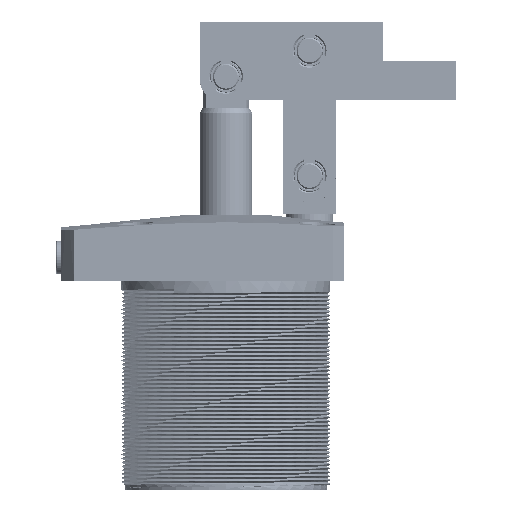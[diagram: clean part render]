
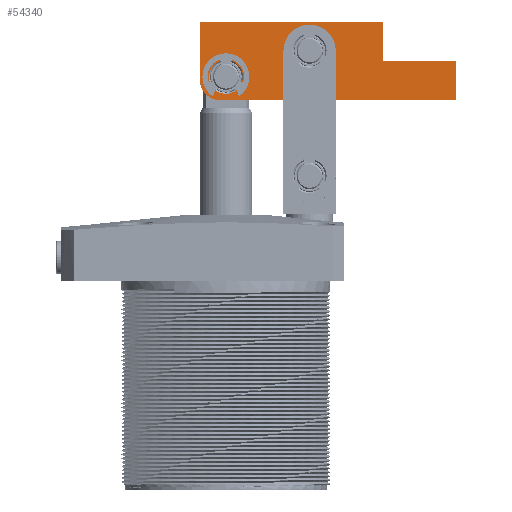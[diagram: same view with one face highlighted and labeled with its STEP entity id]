
A CAD part, top view. The second image highlights one B-rep face of the part: STEP entity #54340.
In plain terms, the highlighted planar face has unit normal (0, 0, 1).
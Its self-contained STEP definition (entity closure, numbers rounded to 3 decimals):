
#396 = DIRECTION ( 'NONE',  ( 0., 0., -1. ) ) ;
#1947 = VECTOR ( 'NONE', #126675, 1000. ) ;
#2425 = CARTESIAN_POINT ( 'NONE',  ( -39., 9., 0. ) ) ;
#4674 = LINE ( 'NONE', #133701, #43731 ) ;
#10088 = EDGE_CURVE ( 'NONE', #204620, #102092, #136750, .T. ) ;
#11262 = EDGE_CURVE ( 'NONE', #158176, #172004, #66409, .T. ) ;
#18214 = EDGE_CURVE ( 'NONE', #151499, #138774, #169553, .T. ) ;
#19231 = DIRECTION ( 'NONE',  ( 1., 0., 0. ) ) ;
#19596 = EDGE_CURVE ( 'NONE', #87784, #158176, #99294, .T. ) ;
#21206 = VERTEX_POINT ( 'NONE', #203450 ) ;
#26307 = PLANE ( 'NONE',  #151647 ) ;
#27056 = CARTESIAN_POINT ( 'NONE',  ( 49., 0., 0. ) ) ;
#27717 = CARTESIAN_POINT ( 'NONE',  ( 21., 30., 0. ) ) ;
#30214 = CIRCLE ( 'NONE', #137001, 5.5 ) ;
#34902 = AXIS2_PLACEMENT_3D ( 'NONE', #100062, #396, #116807 ) ;
#37311 = VERTEX_POINT ( 'NONE', #163186 ) ;
#37809 = FACE_BOUND ( 'NONE', #76000, .T. ) ;
#43731 = VECTOR ( 'NONE', #103111, 1000. ) ;
#47143 = DIRECTION ( 'NONE',  ( -1., 0., 0. ) ) ;
#47708 = LINE ( 'NONE', #198708, #136183 ) ;
#48501 = EDGE_LOOP ( 'NONE', ( #190998, #181748, #59007, #176963, #181205, #98797, #192561 ) ) ;
#54340 = ADVANCED_FACE ( 'NONE', ( #37809, #121079, #209416 ), #26307, .T. ) ;
#59007 = ORIENTED_EDGE ( 'NONE', *, *, #214879, .T. ) ;
#64963 = EDGE_LOOP ( 'NONE', ( #182777, #98330 ) ) ;
#66409 = LINE ( 'NONE', #180846, #110696 ) ;
#66437 = DIRECTION ( 'NONE',  ( 0., 1., 0. ) ) ;
#76000 = EDGE_LOOP ( 'NONE', ( #94307, #193317 ) ) ;
#76438 = DIRECTION ( 'NONE',  ( 1., 0., 0. ) ) ;
#78539 = DIRECTION ( 'NONE',  ( 0., 0., -1. ) ) ;
#81314 = CIRCLE ( 'NONE', #34902, 5.5 ) ;
#83188 = CARTESIAN_POINT ( 'NONE',  ( -41., 8., 0. ) ) ;
#84574 = EDGE_CURVE ( 'NONE', #102092, #87784, #4674, .T. ) ;
#87572 = VERTEX_POINT ( 'NONE', #112769 ) ;
#87784 = VERTEX_POINT ( 'NONE', #166448 ) ;
#92377 = LINE ( 'NONE', #111336, #204111 ) ;
#94307 = ORIENTED_EDGE ( 'NONE', *, *, #154981, .T. ) ;
#94323 = CARTESIAN_POINT ( 'NONE',  ( -39., 9., 0. ) ) ;
#94492 = EDGE_CURVE ( 'NONE', #37311, #87572, #30214, .T. ) ;
#98330 = ORIENTED_EDGE ( 'NONE', *, *, #206455, .T. ) ;
#98797 = ORIENTED_EDGE ( 'NONE', *, *, #19596, .T. ) ;
#99294 = CIRCLE ( 'NONE', #128797, 8. ) ;
#99902 = DIRECTION ( 'NONE',  ( -1., 0., 0. ) ) ;
#100062 = CARTESIAN_POINT ( 'NONE',  ( -7., 19., 0. ) ) ;
#100172 = EDGE_CURVE ( 'NONE', #21206, #106319, #92377, .T. ) ;
#102092 = VERTEX_POINT ( 'NONE', #163849 ) ;
#103111 = DIRECTION ( 'NONE',  ( 0., -1., 0. ) ) ;
#106319 = VERTEX_POINT ( 'NONE', #193890 ) ;
#110696 = VECTOR ( 'NONE', #132151, 1000. ) ;
#111072 = DIRECTION ( 'NONE',  ( 1., 0., 0. ) ) ;
#111336 = CARTESIAN_POINT ( 'NONE',  ( -49., 15., 0. ) ) ;
#112769 = CARTESIAN_POINT ( 'NONE',  ( -1.5, 19., 0. ) ) ;
#116807 = DIRECTION ( 'NONE',  ( 1., 0., 0. ) ) ;
#118839 = DIRECTION ( 'NONE',  ( 0., 0., -1. ) ) ;
#121079 = FACE_BOUND ( 'NONE', #64963, .T. ) ;
#126675 = DIRECTION ( 'NONE',  ( 0., 1., 0. ) ) ;
#128797 = AXIS2_PLACEMENT_3D ( 'NONE', #83188, #199438, #99902 ) ;
#132151 = DIRECTION ( 'NONE',  ( 1., 0., 0. ) ) ;
#133701 = CARTESIAN_POINT ( 'NONE',  ( -49., 0., 0. ) ) ;
#136183 = VECTOR ( 'NONE', #66437, 1000. ) ;
#136750 = LINE ( 'NONE', #179460, #180930 ) ;
#137001 = AXIS2_PLACEMENT_3D ( 'NONE', #178122, #78539, #194794 ) ;
#137873 = CARTESIAN_POINT ( 'NONE',  ( -45.5, 9., 0. ) ) ;
#138774 = VERTEX_POINT ( 'NONE', #137873 ) ;
#141796 = CIRCLE ( 'NONE', #159672, 6.5 ) ;
#146756 = CARTESIAN_POINT ( 'NONE',  ( -32.5, 9., 0. ) ) ;
#151499 = VERTEX_POINT ( 'NONE', #146756 ) ;
#151647 = AXIS2_PLACEMENT_3D ( 'NONE', #159313, #176022, #76438 ) ;
#152833 = CARTESIAN_POINT ( 'NONE',  ( -41., 0., 0. ) ) ;
#154981 = EDGE_CURVE ( 'NONE', #87572, #37311, #81314, .T. ) ;
#158176 = VERTEX_POINT ( 'NONE', #152833 ) ;
#159313 = CARTESIAN_POINT ( 'NONE',  ( -49., 0., 0. ) ) ;
#159672 = AXIS2_PLACEMENT_3D ( 'NONE', #2425, #118839, #19231 ) ;
#163186 = CARTESIAN_POINT ( 'NONE',  ( -12.5, 19., 0. ) ) ;
#163849 = CARTESIAN_POINT ( 'NONE',  ( -49., 30., 0. ) ) ;
#166448 = CARTESIAN_POINT ( 'NONE',  ( -49., 8., 0. ) ) ;
#169553 = CIRCLE ( 'NONE', #199708, 6.5 ) ;
#172004 = VERTEX_POINT ( 'NONE', #189969 ) ;
#176022 = DIRECTION ( 'NONE',  ( 0., 0., 1. ) ) ;
#176963 = ORIENTED_EDGE ( 'NONE', *, *, #10088, .T. ) ;
#178122 = CARTESIAN_POINT ( 'NONE',  ( -7., 19., 0. ) ) ;
#178889 = LINE ( 'NONE', #27056, #1947 ) ;
#179460 = CARTESIAN_POINT ( 'NONE',  ( -49., 30., 0. ) ) ;
#180846 = CARTESIAN_POINT ( 'NONE',  ( -49., 0., 0. ) ) ;
#180930 = VECTOR ( 'NONE', #47143, 1000. ) ;
#181205 = ORIENTED_EDGE ( 'NONE', *, *, #84574, .T. ) ;
#181748 = ORIENTED_EDGE ( 'NONE', *, *, #100172, .T. ) ;
#182777 = ORIENTED_EDGE ( 'NONE', *, *, #18214, .T. ) ;
#189969 = CARTESIAN_POINT ( 'NONE',  ( 49., 0., 0. ) ) ;
#190998 = ORIENTED_EDGE ( 'NONE', *, *, #193483, .T. ) ;
#192561 = ORIENTED_EDGE ( 'NONE', *, *, #11262, .T. ) ;
#193317 = ORIENTED_EDGE ( 'NONE', *, *, #94492, .T. ) ;
#193483 = EDGE_CURVE ( 'NONE', #172004, #21206, #178889, .T. ) ;
#193890 = CARTESIAN_POINT ( 'NONE',  ( 21., 15., 0. ) ) ;
#194794 = DIRECTION ( 'NONE',  ( 1., 0., 0. ) ) ;
#198708 = CARTESIAN_POINT ( 'NONE',  ( 21., 0., 0. ) ) ;
#199438 = DIRECTION ( 'NONE',  ( 0., 0., 1. ) ) ;
#199708 = AXIS2_PLACEMENT_3D ( 'NONE', #94323, #210548, #111072 ) ;
#203450 = CARTESIAN_POINT ( 'NONE',  ( 49., 15., 0. ) ) ;
#204111 = VECTOR ( 'NONE', #210803, 1000. ) ;
#204620 = VERTEX_POINT ( 'NONE', #27717 ) ;
#206455 = EDGE_CURVE ( 'NONE', #138774, #151499, #141796, .T. ) ;
#209416 = FACE_OUTER_BOUND ( 'NONE', #48501, .T. ) ;
#210548 = DIRECTION ( 'NONE',  ( 0., 0., -1. ) ) ;
#210803 = DIRECTION ( 'NONE',  ( -1., 0., 0. ) ) ;
#214879 = EDGE_CURVE ( 'NONE', #106319, #204620, #47708, .T. ) ;
